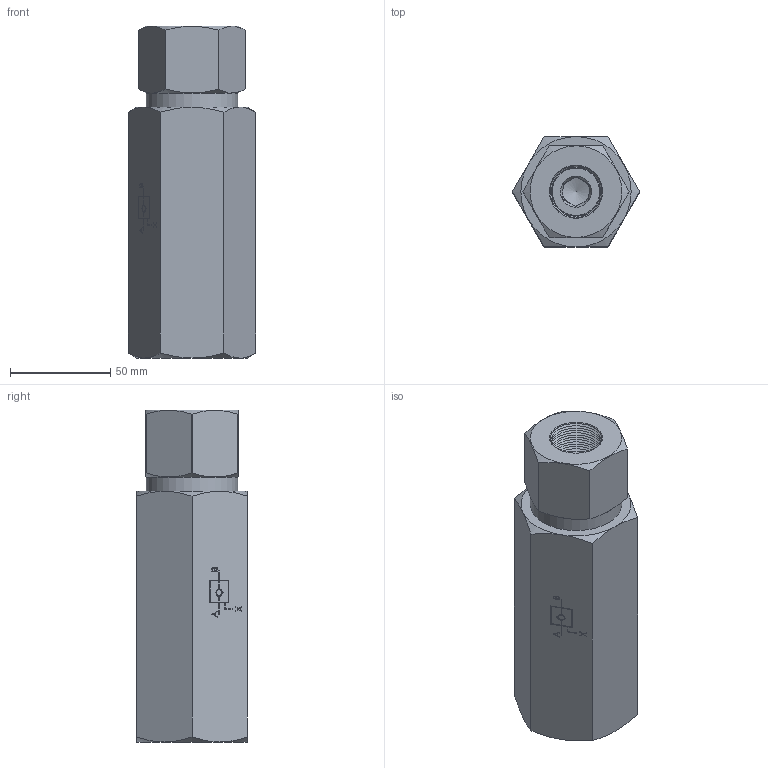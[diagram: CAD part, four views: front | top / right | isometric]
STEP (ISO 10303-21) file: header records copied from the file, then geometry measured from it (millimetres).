
FILE_DESCRIPTION (( 'STEP AP214' ), '1' );
FILE_NAME ('2257-7-34.STEP', '2025-01-23T10:37:43', ( '' ), ( '' ), 'SwSTEP 2.0', 'SolidWorks 2024', '' );
FILE_SCHEMA (( 'AUTOMOTIVE_DESIGN' ));
Length unit declared in the file: millimetre
Products named in the file (9): CONNESSIONE UNIDIREZIONALE 2257-7.033.00.0-34; ASSIEME 2257-7.041.00.0-34; 2257-7-34; OR3143; MOLLA 2 BAR  257-6.009.00.0-34_COMPRESSA; FONDELLO FILETTATO 2257-5.010.00.0-34; CORPO VALVOLA 2257-7.001.00.0-34; PISTONE PILOTAGGIO 2257-7.019.00.10-34; VALVOLA TENUTA METALLICA 2257-5.008.00.0-34
Assembly tree (8 placements, depth 3):
  2257-7-34
    ASSIEME 2257-7.041.00.0-34
      CONNESSIONE UNIDIREZIONALE 2257-7.033.00.0-34
      FONDELLO FILETTATO 2257-5.010.00.0-34
      VALVOLA TENUTA METALLICA 2257-5.008.00.0-34
      MOLLA 2 BAR  257-6.009.00.0-34_COMPRESSA
    CORPO VALVOLA 2257-7.001.00.0-34
    PISTONE PILOTAGGIO 2257-7.019.00.10-34
    OR3143
Bounding box: 63.51 x 55 x 165.5 mm (x, y, z)
Volume: 335593.9 mm3; surface area: 88640.9 mm2
Topology: 7 solids, 7 shells, 672 faces, 1585 edges, 984 vertices
Faces by surface type: plane 287, cone 240, cylinder 73, bspline 69, torus 3
Full cylindrical faces by diameter (mm): 3.024 x1, 5 x6, 7 x5, 14 x3, 17.5 x1, 18.2 x4, 18.3 x1, 19 x8, 22.8 x4, 23.5 x6, 24.5 x1, 25 x1, 27 x1, 27.053 x1, 34.2 x4, 35 x6, 36.8 x1, 37 x1, 38 x2, 45.7 x1
Entity records: 23651 total; most frequent: CARTESIAN_POINT 9727, DIRECTION 2638, ORIENTED_EDGE 2502, EDGE_CURVE 1251, EDGE_LOOP 1044, AXIS2_PLACEMENT_3D 986, VERTEX_POINT 937, FACE_OUTER_BOUND 733
